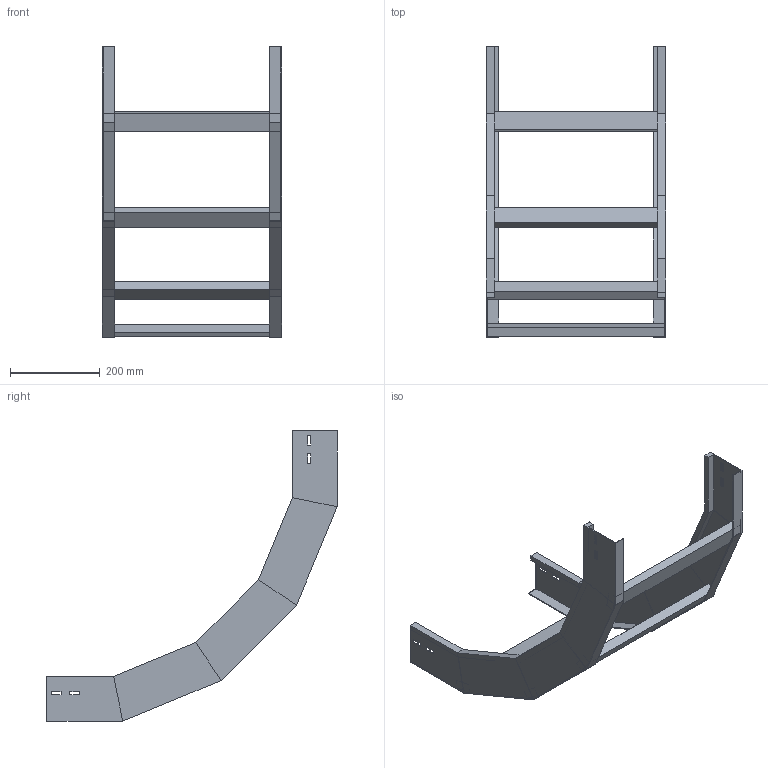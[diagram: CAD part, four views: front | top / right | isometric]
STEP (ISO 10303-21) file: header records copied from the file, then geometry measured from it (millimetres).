
FILE_DESCRIPTION (( 'STEP AP214' ), '1' );
FILE_NAME ('A2X30B5D400XX.step', '2025-03-20T10:19:38', ( '' ), ( '' ), 'SwSTEP 2.0', 'SolidWorks 2023', '' );
FILE_SCHEMA (( 'AUTOMOTIVE_DESIGN' ));
Length unit declared in the file: millimetre
Products named in the file (3): TRAVERSINO_400; LONGH.SALITA_90°_H100_R500; A2X30B5D400XX
Assembly tree (6 placements, depth 2):
  A2X30B5D400XX
    LONGH.SALITA_90°_H100_R500  x2
    TRAVERSINO_400  x4
Bounding box: 400 x 649.05 x 649.05 mm (x, y, z)
Volume: 2122445.4 mm3; surface area: 758783.1 mm2
Topology: 6 solids, 6 shells, 140 faces, 320 edges, 192 vertices
Faces by surface type: plane 140
Entity records: 1872 total; most frequent: CARTESIAN_POINT 309, ORIENTED_EDGE 296, DIRECTION 294, VECTOR 148, EDGE_CURVE 148, LINE 148, VERTEX_POINT 88, AXIS2_PLACEMENT_3D 73
